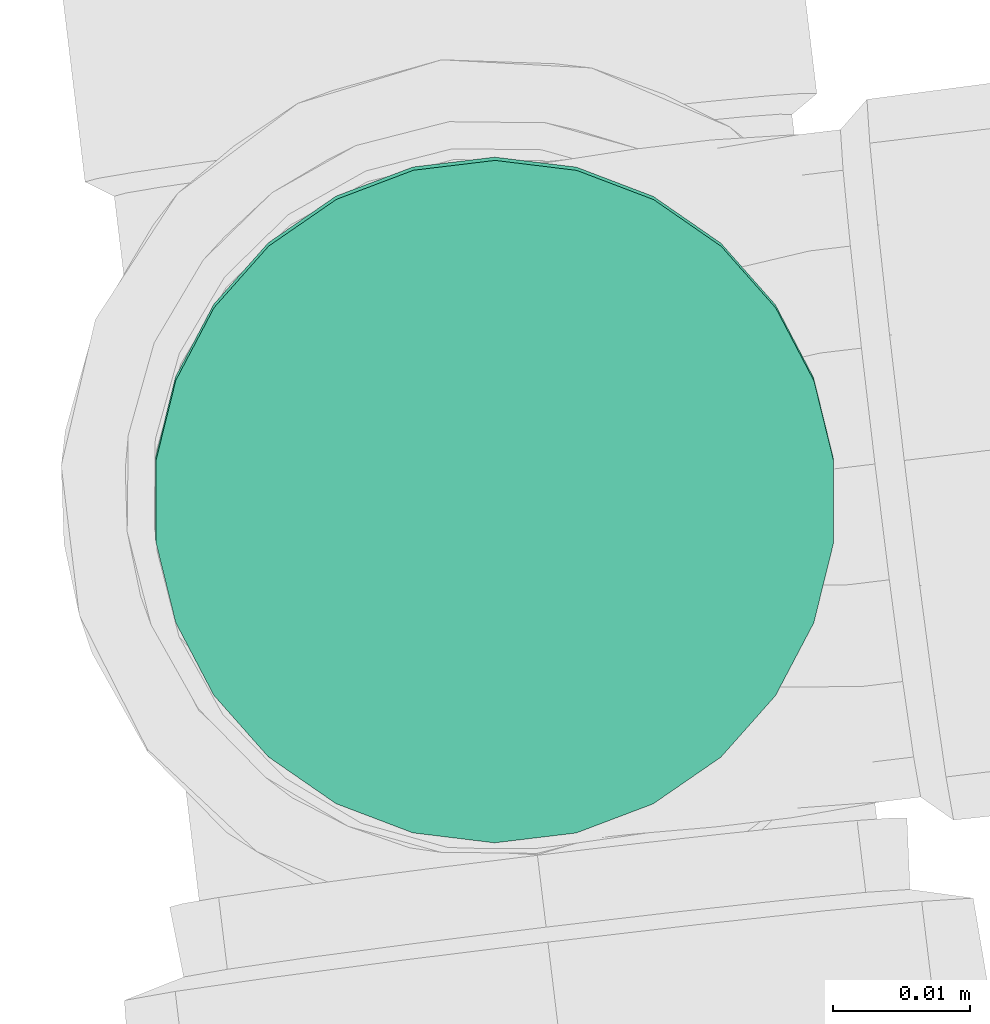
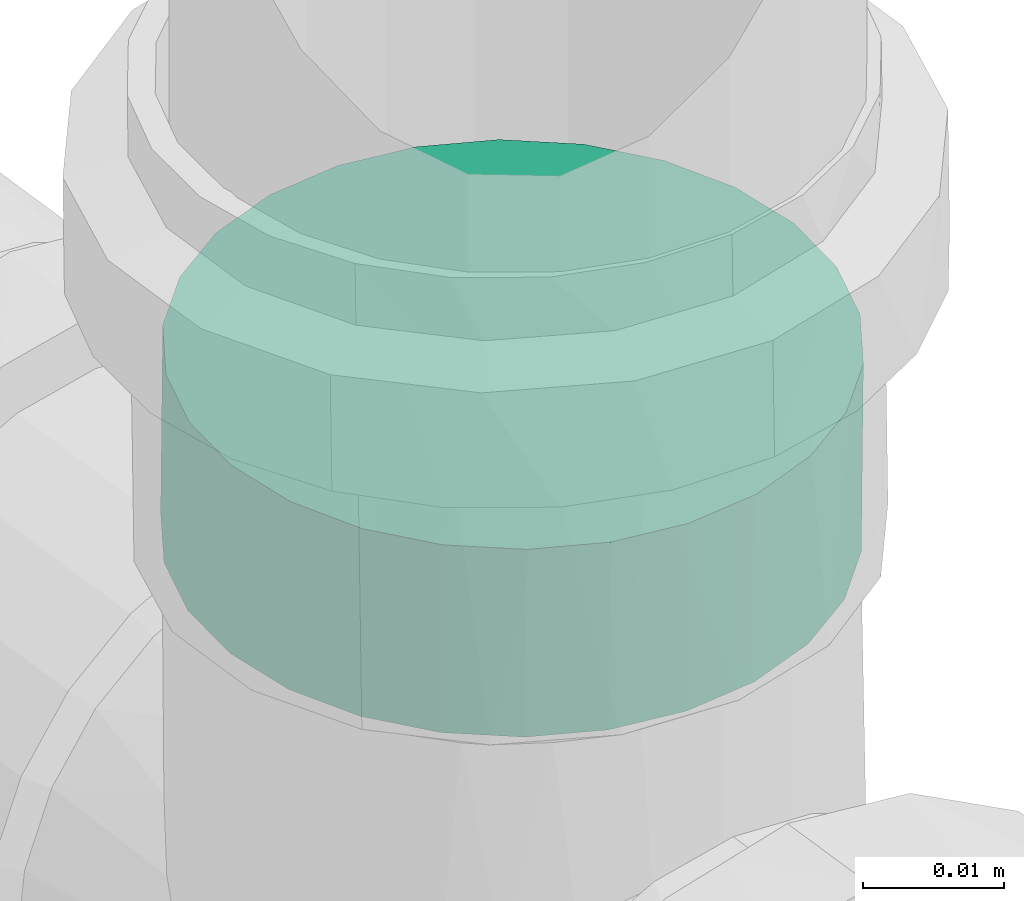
# One storey, part 66 of 97: 1 flow segment.
"""IFC2X3 building model written with IfcOpenShell, lengths in centimetres."""

from ifc_helpers import new_model, entity, si_unit, converted_unit, derived_unit, direction, frame, origin, origin_2d_with_axis, place, context, subcontext, project, spatial, circle, extrude, type_object, element, save


model = new_model("IFC2X3")

# Units and contexts
model_context = context("Model", 3, precision=0.001, world=origin(), true_north=direction((6.12303176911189e-17, 1.0)))
body_context = subcontext(model_context, "Body", "Model", "MODEL_VIEW")
ifc_project = project(units=[si_unit("LENGTHUNIT", "METRE", prefix="CENTI"), si_unit("AREAUNIT", "SQUARE_METRE"), si_unit("VOLUMEUNIT", "CUBIC_METRE"), converted_unit("PLANEANGLEUNIT", "DEGREE", entity("IfcRatioMeasure", 0.0174532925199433), si_unit("PLANEANGLEUNIT", "RADIAN"), dimensions=[0, 0, 0, 0, 0, 0, 0]), si_unit("MASSUNIT", "GRAM", prefix="KILO"), derived_unit("MASSDENSITYUNIT", [(si_unit("MASSUNIT", "GRAM", prefix="KILO"), 1), (si_unit("LENGTHUNIT", "METRE"), -3)]), derived_unit("MOMENTOFINERTIAUNIT", [(si_unit("LENGTHUNIT", "METRE"), 4)]), si_unit("TIMEUNIT", "SECOND"), si_unit("FREQUENCYUNIT", "HERTZ"), si_unit("THERMODYNAMICTEMPERATUREUNIT", "DEGREE_CELSIUS"), derived_unit("THERMALTRANSMITTANCEUNIT", [(si_unit("MASSUNIT", "GRAM", prefix="KILO"), 1), (si_unit("THERMODYNAMICTEMPERATUREUNIT", "KELVIN"), -1), (si_unit("TIMEUNIT", "SECOND"), -3)]), derived_unit("VOLUMETRICFLOWRATEUNIT", [(si_unit("LENGTHUNIT", "METRE"), 3), (si_unit("TIMEUNIT", "SECOND"), -1)]), si_unit("ELECTRICCURRENTUNIT", "AMPERE"), si_unit("ELECTRICVOLTAGEUNIT", "VOLT"), si_unit("POWERUNIT", "WATT"), si_unit("FORCEUNIT", "NEWTON", prefix="KILO"), si_unit("ILLUMINANCEUNIT", "LUX"), si_unit("LUMINOUSFLUXUNIT", "LUMEN"), si_unit("LUMINOUSINTENSITYUNIT", "CANDELA"), derived_unit("USERDEFINED", [(si_unit("MASSUNIT", "GRAM", prefix="KILO"), -1), (si_unit("LENGTHUNIT", "METRE"), -2), (si_unit("TIMEUNIT", "SECOND"), 3), (si_unit("LUMINOUSFLUXUNIT", "LUMEN"), 1)]), derived_unit("LINEARVELOCITYUNIT", [(si_unit("LENGTHUNIT", "METRE"), 1), (si_unit("TIMEUNIT", "SECOND"), -1)]), si_unit("PRESSUREUNIT", "PASCAL"), derived_unit("USERDEFINED", [(si_unit("LENGTHUNIT", "METRE"), -2), (si_unit("MASSUNIT", "GRAM", prefix="KILO"), 1), (si_unit("TIMEUNIT", "SECOND"), -2)]), derived_unit("LINEARFORCEUNIT", [(si_unit("MASSUNIT", "GRAM", prefix="KILO"), 1), (si_unit("LENGTHUNIT", "METRE"), 1), (si_unit("TIMEUNIT", "SECOND"), -2), (si_unit("LENGTHUNIT", "METRE"), -1)]), derived_unit("PLANARFORCEUNIT", [(si_unit("MASSUNIT", "GRAM", prefix="KILO"), 1), (si_unit("LENGTHUNIT", "METRE"), 1), (si_unit("TIMEUNIT", "SECOND"), -2), (si_unit("LENGTHUNIT", "METRE"), -2)])], contexts=[model_context])

# Site, building, storey
site_placement = place(None, origin())
site = spatial("IfcSite", under=ifc_project, at=site_placement, Name="Default", CompositionType="ELEMENT")
building_placement = place(site_placement, origin())
building = spatial("IfcBuilding", under=site, at=building_placement, Name="HIDROSSANITÁRIO", CompositionType="ELEMENT")
storey_placement = place(building_placement, frame((0.0, 0.0, -260.0)))
storey = spatial("IfcBuildingStorey", under=building, at=storey_placement, Name="TÉRREO-HID", CompositionType="ELEMENT", Elevation=-260.0)

# Flow segment
pipe_segment_type = type_object("IfcPipeSegmentType", Name="Tipos de tubos:Tubo - Esgoto - Série Normal", PredefinedType="NOTDEFINED")
flow_segment_placement = place(storey_placement, origin())
element("IfcFlowSegment", 1, at=flow_segment_placement, inside=storey, type_object=pipe_segment_type, Name="Tipos de tubos:Tubo - Esgoto - Série Normal", ObjectType="Tipos de tubos:Tubo - Esgoto - Série Normal", context=body_context, shape_type="SweptSolid", body=[
    extrude(circle(Radius=2.5, at=origin_2d_with_axis()), frame((-1726.32217432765, 2840.09729734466, -28.7480238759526), z_axis=(0.0017566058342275, -0.0145706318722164, 0.999892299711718), x_axis=(-0.992811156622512, -0.119691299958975, 0.0)), (0.0, 0.0, 1.0), 1.64307503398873),
])

save(model, "model.ifc")
